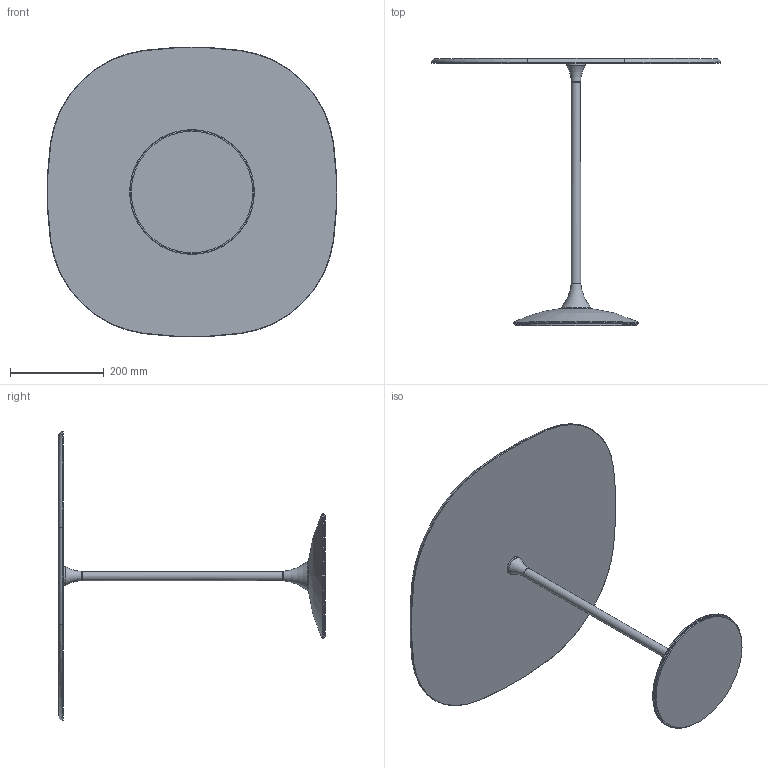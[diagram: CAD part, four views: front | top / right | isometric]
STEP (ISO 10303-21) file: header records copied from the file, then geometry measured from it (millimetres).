
FILE_DESCRIPTION((''),'2;1');
FILE_NAME('C:\AutodeskVault\AreaLavoro\Progetti\SoVeT Italia\2. Tavolini_Coffee tables\Tulip\Web file\Tulip Web\P4614.stp','2012-06-14T17:27:55',('Gianluca'),('So.Ve.T. s.r.l.'),'Autodesk Inventor 2013','Autodesk Inventor 2013','IL PROGETTO E'' DI ESCLUSIVA PROPRIETA'' DELLA SO.VE.T. srl. E'' VIETATA OGNI RIPRODUZIONE TOTALE O PARZIALE E QUALSIASI UTILIZZO NON AUTORIZZATO. ');
FILE_SCHEMA(('AUTOMOTIVE_DESIGN { 1 0 10303 214 1 1 1 1 }'));
Length unit declared in the file: millimetre
Products named in the file (1): P4614 LCTR Contorno semplificato
Bounding box: 618.44 x 570.45 x 618.44 mm (x, y, z)
Volume: 4732371.1 mm3; surface area: 821751.4 mm2
Topology: 1 solids, 1 shells, 40 faces, 85 edges, 50 vertices
Faces by surface type: torus 14, cone 14, plane 6, cylinder 5, bspline 1
Full cylindrical faces by diameter (mm): 20 x1, 40 x1, 60 x1, 260 x1, 267 x1
Entity records: 1066 total; most frequent: DIRECTION 196, CARTESIAN_POINT 174, ORIENTED_EDGE 124, AXIS2_PLACEMENT_3D 94, EDGE_CURVE 62, EDGE_LOOP 62, CIRCLE 54, VERTEX_POINT 45
